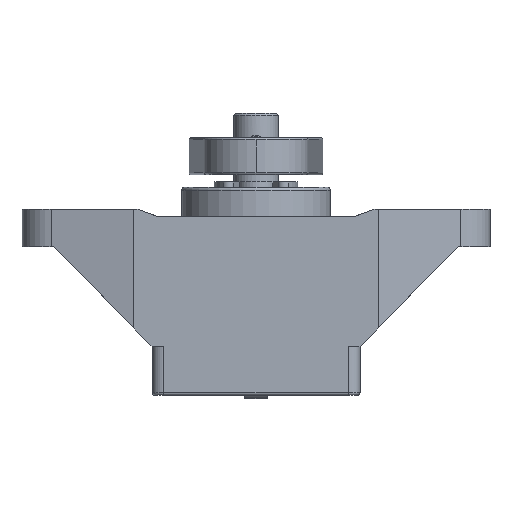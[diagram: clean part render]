
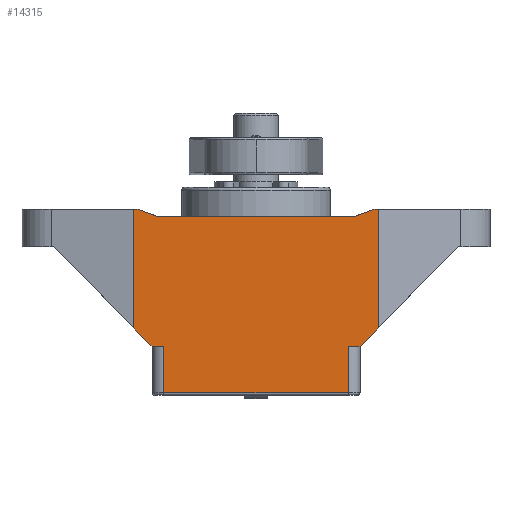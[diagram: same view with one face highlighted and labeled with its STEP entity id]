
A CAD part, front view. The second image highlights one B-rep face of the part: STEP entity #14315.
In plain terms, the highlighted planar face has unit normal (0, -1, 0).
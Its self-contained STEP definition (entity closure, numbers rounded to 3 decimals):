
#1042 = CARTESIAN_POINT ( 'NONE',  ( 16.5, -13., -18.943 ) ) ;
#1132 = VECTOR ( 'NONE', #27388, 1000. ) ;
#1196 = ORIENTED_EDGE ( 'NONE', *, *, #8897, .F. ) ;
#1339 = CARTESIAN_POINT ( 'NONE',  ( -15.883, -13., -3. ) ) ;
#1725 = LINE ( 'NONE', #18551, #25579 ) ;
#2203 = DIRECTION ( 'NONE',  ( 1., 0., 0. ) ) ;
#3011 = CARTESIAN_POINT ( 'NONE',  ( -12.4, -13., -19.237 ) ) ;
#3184 = VERTEX_POINT ( 'NONE', #1339 ) ;
#3578 = LINE ( 'NONE', #27242, #1132 ) ;
#4283 = DIRECTION ( 'NONE',  ( 0., 0., -1. ) ) ;
#4399 = ORIENTED_EDGE ( 'NONE', *, *, #13092, .F. ) ;
#4426 = ORIENTED_EDGE ( 'NONE', *, *, #21096, .F. ) ;
#4496 = DIRECTION ( 'NONE',  ( 1., 0., 0. ) ) ;
#4642 = VECTOR ( 'NONE', #5703, 1000. ) ;
#4886 = LINE ( 'NONE', #21822, #21068 ) ;
#4907 = CARTESIAN_POINT ( 'NONE',  ( 12.4, -13., -19.237 ) ) ;
#5184 = DIRECTION ( 'NONE',  ( 0., 0., -1. ) ) ;
#5248 = VERTEX_POINT ( 'NONE', #14939 ) ;
#5703 = DIRECTION ( 'NONE',  ( -1., 0., 0. ) ) ;
#5786 = EDGE_CURVE ( 'NONE', #21257, #16431, #7867, .T. ) ;
#5846 = CARTESIAN_POINT ( 'NONE',  ( -13.136, -13., -4. ) ) ;
#5911 = CARTESIAN_POINT ( 'NONE',  ( 12.4, -13., -27.7 ) ) ;
#6606 = CARTESIAN_POINT ( 'NONE',  ( 14., -13., -3. ) ) ;
#7094 = CARTESIAN_POINT ( 'NONE',  ( -12.4, -13., -27.7 ) ) ;
#7254 = LINE ( 'NONE', #24325, #22391 ) ;
#7417 = VERTEX_POINT ( 'NONE', #10886 ) ;
#7814 = ORIENTED_EDGE ( 'NONE', *, *, #14298, .F. ) ;
#7867 = LINE ( 'NONE', #5911, #13883 ) ;
#8723 = LINE ( 'NONE', #6606, #19875 ) ;
#8897 = EDGE_CURVE ( 'NONE', #24294, #24357, #22006, .T. ) ;
#8899 = VERTEX_POINT ( 'NONE', #23559 ) ;
#9315 = VERTEX_POINT ( 'NONE', #23655 ) ;
#9737 = DIRECTION ( 'NONE',  ( 0., 0., -1. ) ) ;
#9893 = VERTEX_POINT ( 'NONE', #11654 ) ;
#10100 = DIRECTION ( 'NONE',  ( 1., 0., 0. ) ) ;
#10333 = ORIENTED_EDGE ( 'NONE', *, *, #24191, .F. ) ;
#10394 = VECTOR ( 'NONE', #5184, 1000. ) ;
#10886 = CARTESIAN_POINT ( 'NONE',  ( -16.5, -13., -18.943 ) ) ;
#11203 = EDGE_CURVE ( 'NONE', #7417, #25489, #16604, .T. ) ;
#11367 = ORIENTED_EDGE ( 'NONE', *, *, #18301, .T. ) ;
#11654 = CARTESIAN_POINT ( 'NONE',  ( 13.136, -13., -4. ) ) ;
#11702 = EDGE_CURVE ( 'NONE', #25489, #3184, #3578, .T. ) ;
#11889 = VECTOR ( 'NONE', #23187, 1000. ) ;
#12206 = CARTESIAN_POINT ( 'NONE',  ( -14., -13., -21.5 ) ) ;
#12359 = EDGE_CURVE ( 'NONE', #5248, #20949, #8723, .T. ) ;
#12475 = LINE ( 'NONE', #12206, #22584 ) ;
#12563 = CARTESIAN_POINT ( 'NONE',  ( -8.9, -13., -4. ) ) ;
#12934 = FACE_OUTER_BOUND ( 'NONE', #18066, .T. ) ;
#12951 = AXIS2_PLACEMENT_3D ( 'NONE', #27546, #18991, #4283 ) ;
#13092 = EDGE_CURVE ( 'NONE', #24357, #7417, #12475, .T. ) ;
#13355 = CARTESIAN_POINT ( 'NONE',  ( -16.5, -13., -3. ) ) ;
#13690 = DIRECTION ( 'NONE',  ( 0.94, 0., -0.342 ) ) ;
#13883 = VECTOR ( 'NONE', #10100, 1000. ) ;
#14116 = ORIENTED_EDGE ( 'NONE', *, *, #16483, .F. ) ;
#14298 = EDGE_CURVE ( 'NONE', #9893, #5248, #25287, .T. ) ;
#14315 = ADVANCED_FACE ( 'NONE', ( #12934 ), #25559, .T. ) ;
#14634 = CARTESIAN_POINT ( 'NONE',  ( -14., -13., -21.5 ) ) ;
#14639 = CARTESIAN_POINT ( 'NONE',  ( -16.5, -13., -8. ) ) ;
#14939 = CARTESIAN_POINT ( 'NONE',  ( 15.883, -13., -3. ) ) ;
#15042 = VECTOR ( 'NONE', #15285, 1000. ) ;
#15183 = ORIENTED_EDGE ( 'NONE', *, *, #5786, .T. ) ;
#15285 = DIRECTION ( 'NONE',  ( -1., 0., 0. ) ) ;
#15435 = ORIENTED_EDGE ( 'NONE', *, *, #11702, .F. ) ;
#15442 = VERTEX_POINT ( 'NONE', #5846 ) ;
#16431 = VERTEX_POINT ( 'NONE', #24987 ) ;
#16483 = EDGE_CURVE ( 'NONE', #24578, #9315, #1725, .T. ) ;
#16604 = LINE ( 'NONE', #14639, #11889 ) ;
#16755 = EDGE_CURVE ( 'NONE', #8899, #16431, #24215, .T. ) ;
#17018 = DIRECTION ( 'NONE',  ( 0.94, 0., 0.342 ) ) ;
#17072 = EDGE_CURVE ( 'NONE', #15442, #9893, #23360, .T. ) ;
#17523 = CARTESIAN_POINT ( 'NONE',  ( -14., -13., -21.5 ) ) ;
#18014 = DIRECTION ( 'NONE',  ( -0.699, 0., 0.715 ) ) ;
#18022 = ORIENTED_EDGE ( 'NONE', *, *, #27144, .T. ) ;
#18066 = EDGE_LOOP ( 'NONE', ( #18022, #15183, #27609, #10333, #14116, #11367, #20053, #7814, #20010, #4426, #15435, #20442, #4399, #1196 ) ) ;
#18301 = EDGE_CURVE ( 'NONE', #24578, #20949, #7254, .T. ) ;
#18551 = CARTESIAN_POINT ( 'NONE',  ( 14., -13., -21.5 ) ) ;
#18822 = DIRECTION ( 'NONE',  ( -0.699, 0., -0.715 ) ) ;
#18991 = DIRECTION ( 'NONE',  ( 0., -1., 0. ) ) ;
#18992 = CARTESIAN_POINT ( 'NONE',  ( -12.4, -13., -21.5 ) ) ;
#19394 = CARTESIAN_POINT ( 'NONE',  ( 15.883, -13., -3. ) ) ;
#19875 = VECTOR ( 'NONE', #4496, 1000. ) ;
#20010 = ORIENTED_EDGE ( 'NONE', *, *, #17072, .F. ) ;
#20053 = ORIENTED_EDGE ( 'NONE', *, *, #12359, .F. ) ;
#20442 = ORIENTED_EDGE ( 'NONE', *, *, #11203, .F. ) ;
#20445 = VECTOR ( 'NONE', #9737, 1000. ) ;
#20685 = CARTESIAN_POINT ( 'NONE',  ( 14., -13., -21.5 ) ) ;
#20949 = VERTEX_POINT ( 'NONE', #21276 ) ;
#21031 = VECTOR ( 'NONE', #17018, 1000. ) ;
#21068 = VECTOR ( 'NONE', #13690, 1000. ) ;
#21096 = EDGE_CURVE ( 'NONE', #3184, #15442, #4886, .T. ) ;
#21257 = VERTEX_POINT ( 'NONE', #7094 ) ;
#21276 = CARTESIAN_POINT ( 'NONE',  ( 16.5, -13., -3. ) ) ;
#21822 = CARTESIAN_POINT ( 'NONE',  ( -15.883, -13., -3. ) ) ;
#22006 = LINE ( 'NONE', #17523, #15042 ) ;
#22391 = VECTOR ( 'NONE', #26583, 1000. ) ;
#22584 = VECTOR ( 'NONE', #18014, 1000. ) ;
#23187 = DIRECTION ( 'NONE',  ( 0., 0., 1. ) ) ;
#23360 = LINE ( 'NONE', #12563, #25620 ) ;
#23559 = CARTESIAN_POINT ( 'NONE',  ( 12.4, -13., -21.5 ) ) ;
#23655 = CARTESIAN_POINT ( 'NONE',  ( 14., -13., -21.5 ) ) ;
#24191 = EDGE_CURVE ( 'NONE', #9315, #8899, #24736, .T. ) ;
#24215 = LINE ( 'NONE', #4907, #10394 ) ;
#24291 = LINE ( 'NONE', #3011, #20445 ) ;
#24294 = VERTEX_POINT ( 'NONE', #18992 ) ;
#24325 = CARTESIAN_POINT ( 'NONE',  ( 16.5, -13., -8. ) ) ;
#24357 = VERTEX_POINT ( 'NONE', #14634 ) ;
#24578 = VERTEX_POINT ( 'NONE', #1042 ) ;
#24736 = LINE ( 'NONE', #20685, #4642 ) ;
#24987 = CARTESIAN_POINT ( 'NONE',  ( 12.4, -13., -27.7 ) ) ;
#25287 = LINE ( 'NONE', #19394, #21031 ) ;
#25489 = VERTEX_POINT ( 'NONE', #13355 ) ;
#25559 = PLANE ( 'NONE',  #12951 ) ;
#25579 = VECTOR ( 'NONE', #18822, 1000. ) ;
#25620 = VECTOR ( 'NONE', #2203, 1000. ) ;
#26583 = DIRECTION ( 'NONE',  ( 0., 0., 1. ) ) ;
#27144 = EDGE_CURVE ( 'NONE', #24294, #21257, #24291, .T. ) ;
#27242 = CARTESIAN_POINT ( 'NONE',  ( -14., -13., -3. ) ) ;
#27388 = DIRECTION ( 'NONE',  ( 1., 0., 0. ) ) ;
#27546 = CARTESIAN_POINT ( 'NONE',  ( -14., -13., -28. ) ) ;
#27609 = ORIENTED_EDGE ( 'NONE', *, *, #16755, .F. ) ;
